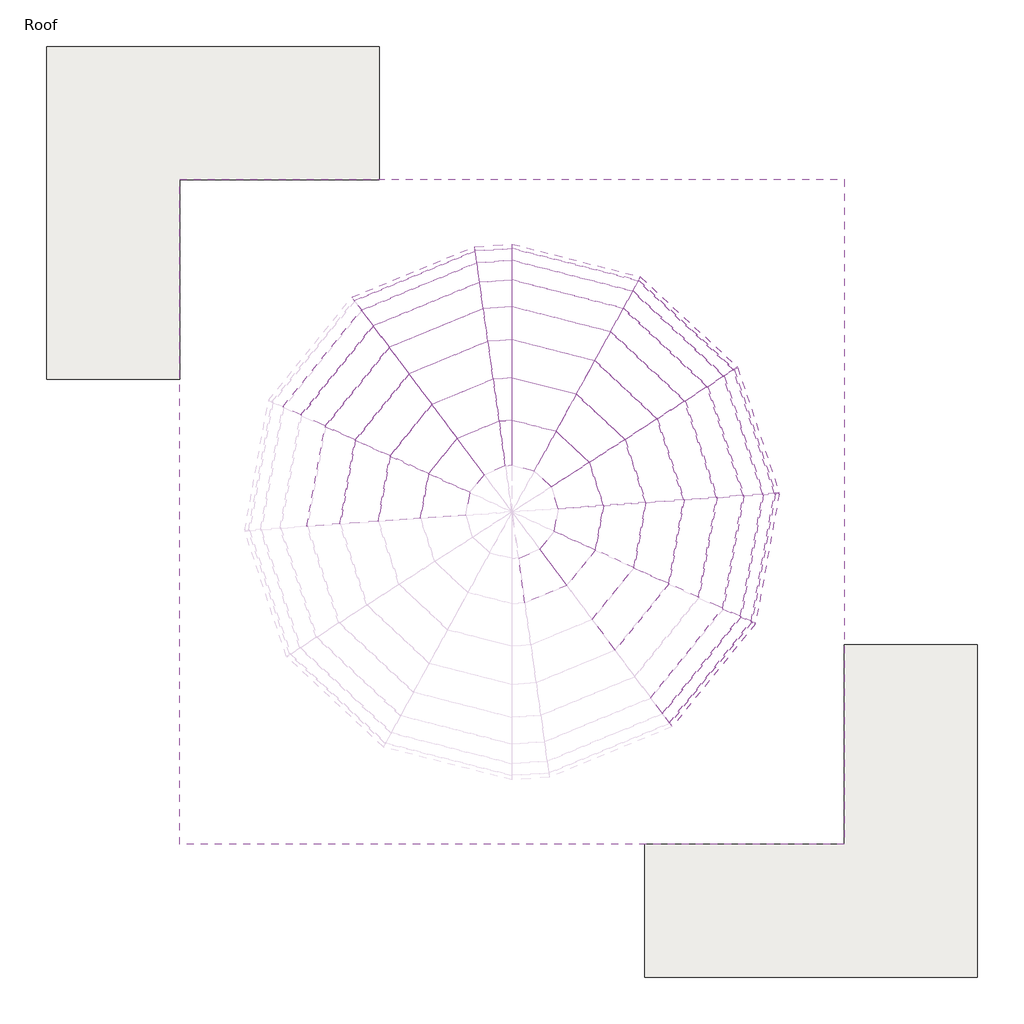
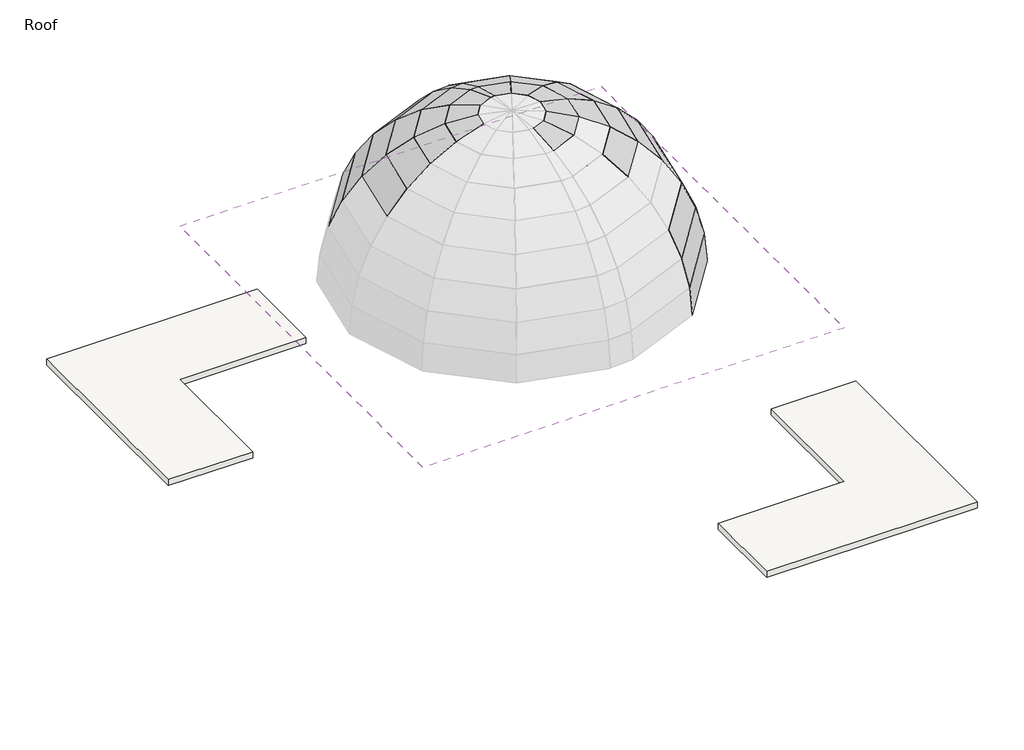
# One storey, part 2 of 2: 64 plates, 2 roofs.
"""IFC4 building model written with IfcOpenShell, lengths in millimetres."""

import ifcopenshell
import ifcopenshell.guid

model = None  # the IFC model being written
_history = None  # IfcOwnerHistory: only IFC2X3 demands one
_inside = {}  # id of a spatial element -> (the spatial element, [elements in it])
_under = {}  # id of a project, library or spatial element -> (it, [spatial elements below it])
_declared = {}  # id of a project -> (the project, [libraries it declares])
_typed = {}  # id of a type object -> (the type object, [elements of that type])
_made_of = {}  # id of a material, layer set ... -> (it, [elements and type objects made of it])


def new_model(schema):
    """Start an empty IFC model of exactly this schema.

    Asked for "IFC4X3", IfcOpenShell would pick the latest addendum, in which some entities
    have other attributes; the version numbers below select the first issue.
    IFC2X3 requires an IfcOwnerHistory on every rooted entity: one is made here for all.
    """
    global model, _history
    if schema == "IFC4X3":
        model = ifcopenshell.file(schema_version=(4, 3, 0, 0))
    else:
        model = ifcopenshell.file(schema=schema)
    _inside.clear()
    _under.clear()
    _declared.clear()
    _typed.clear()
    _made_of.clear()
    _history = None
    if model.schema == "IFC2X3":
        org = make("IfcOrganization", Name="unknown")
        user = make(
            "IfcPersonAndOrganization",
            ThePerson=make("IfcPerson", FamilyName="unknown"),
            TheOrganization=org,
        )
        app = make(
            "IfcApplication",
            ApplicationDeveloper=org,
            Version="unknown",
            ApplicationFullName="unknown",
            ApplicationIdentifier="unknown",
        )
        _history = make(
            "IfcOwnerHistory",
            OwningUser=user,
            OwningApplication=app,
            ChangeAction="ADDED",
            CreationDate=0,
        )
    return model


def make(cls, **values):
    """One entity of the class cls with the attributes given. An attribute that is None is left unset."""
    return model.create_entity(
        cls, **{name: value for name, value in values.items() if value is not None}
    )


def rooted(cls, **values):
    """An entity with a GlobalId (a new one), such as an element, a storey or a relation."""
    return make(cls, GlobalId=ifcopenshell.guid.new(), OwnerHistory=_history, **values)


def si_unit(unit_type, name, prefix=None):
    """IfcSIUnit, for example si_unit("LENGTHUNIT", "METRE", prefix="MILLI")."""
    return make("IfcSIUnit", UnitType=unit_type, Prefix=prefix, Name=name)


def assignment(units):
    """IfcUnitAssignment: the units of a project."""
    return None if units is None else make("IfcUnitAssignment", Units=units)


def point(xyz):
    """IfcCartesianPoint."""
    return None if xyz is None else make("IfcCartesianPoint", Coordinates=xyz)


def direction(xyz):
    """IfcDirection."""
    return None if xyz is None else make("IfcDirection", DirectionRatios=xyz)


def frame(location, z_axis=None, x_axis=None):
    """IfcAxis2Placement3D, a coordinate frame: its origin and axes. An axis left out is left unset."""
    return make(
        "IfcAxis2Placement3D",
        Location=point(location),
        Axis=direction(z_axis),
        RefDirection=direction(x_axis),
    )


def frame_2d(location, x_axis=None):
    """IfcAxis2Placement2D, a coordinate frame in the plane: its origin and x axis."""
    return make(
        "IfcAxis2Placement2D", Location=point(location), RefDirection=direction(x_axis)
    )


def origin():
    """The frame at (0, 0, 0) with its axes left unset."""
    return frame((0.0, 0.0, 0.0))


def place(relative_to, where):
    """IfcLocalPlacement: puts the frame where relative to a parent placement (None: the world)."""
    return make(
        "IfcLocalPlacement", PlacementRelTo=relative_to, RelativePlacement=where
    )


def context(
    kind, dimensions, precision=None, world=None, true_north=None, identifier=None
):
    """IfcGeometricRepresentationContext, for example the 3D "Model" context."""
    return make(
        "IfcGeometricRepresentationContext",
        ContextIdentifier=identifier,
        ContextType=kind,
        CoordinateSpaceDimension=dimensions,
        Precision=precision,
        WorldCoordinateSystem=world,
        TrueNorth=true_north,
    )


def project(units=None, contexts=None):
    """IfcProject with its units and contexts."""
    return rooted(
        "IfcProject",
        Name="project",
        RepresentationContexts=contexts,
        UnitsInContext=assignment(units),
    )


def spatial(cls, under=None, at=None, **own):
    """A site, building, storey or space (cls), placed at a placement, below another one or the project."""
    s = rooted(cls, ObjectPlacement=at, **own)
    if under is not None:
        _under.setdefault(under.id(), (under, []))[1].append(s)
    return s


def polyline(points):
    """IfcPolyline through the points."""
    return make("IfcPolyline", Points=[point(p) for p in points])


def circle_curve(where, radius):
    """IfcCircle in the frame where."""
    return make("IfcCircle", Position=where, Radius=radius)


def trimmed(basis, trim1, trim2, sense, master):
    """IfcTrimmedCurve: the piece of a basis curve between two trims."""
    return make(
        "IfcTrimmedCurve",
        BasisCurve=basis,
        Trim1=trim1,
        Trim2=trim2,
        SenseAgreement=sense,
        MasterRepresentation=master,
    )


def segment(curve, same_sense, transition):
    """IfcCompositeCurveSegment."""
    return make(
        "IfcCompositeCurveSegment",
        Transition=transition,
        SameSense=same_sense,
        ParentCurve=curve,
    )


def composite_curve(segments, self_intersect=None):
    """IfcCompositeCurve: segments joined end to end."""
    return make("IfcCompositeCurve", Segments=segments, SelfIntersect=self_intersect)


def outline(outer, holes=None, kind="AREA"):
    """IfcArbitraryClosedProfileDef: a profile drawn as a closed curve; with holes, ...WithVoids."""
    if holes is None:
        return make("IfcArbitraryClosedProfileDef", ProfileType=kind, OuterCurve=outer)
    return make(
        "IfcArbitraryProfileDefWithVoids",
        ProfileType=kind,
        OuterCurve=outer,
        InnerCurves=holes,
    )


def extrude(swept, where, along, depth):
    """IfcExtrudedAreaSolid: the profile swept, set in the frame where, extruded along a direction by depth."""
    return make(
        "IfcExtrudedAreaSolid",
        SweptArea=swept,
        Position=where,
        ExtrudedDirection=direction(along),
        Depth=depth,
    )


def shape(context_of_items, identifier, shape_type, items):
    """IfcShapeRepresentation: the items that make up one representation, for example the "Body"."""
    return make(
        "IfcShapeRepresentation",
        ContextOfItems=context_of_items,
        RepresentationIdentifier=identifier,
        RepresentationType=shape_type,
        Items=items,
    )


def source(mapping_origin, context_of_items, identifier, shape_type, items):
    """IfcRepresentationMap: a shape defined once, which mapped items show again and again."""
    return make(
        "IfcRepresentationMap",
        MappingOrigin=mapping_origin,
        MappedRepresentation=shape(context_of_items, identifier, shape_type, items),
    )


def transform(
    local_origin,
    x_axis=None,
    y_axis=None,
    z_axis=None,
    scale=None,
    scale2=None,
    scale3=None,
    uniform=True,
):
    """IfcCartesianTransformationOperator3D, or its non-uniform kind. x_axis, y_axis, z_axis: its Axis1, 2, 3."""
    if uniform:
        return make(
            "IfcCartesianTransformationOperator3D",
            Axis1=direction(x_axis),
            Axis2=direction(y_axis),
            LocalOrigin=point(local_origin),
            Scale=scale,
            Axis3=direction(z_axis),
        )
    return make(
        "IfcCartesianTransformationOperator3DnonUniform",
        Axis1=direction(x_axis),
        Axis2=direction(y_axis),
        LocalOrigin=point(local_origin),
        Scale=scale,
        Axis3=direction(z_axis),
        Scale2=scale2,
        Scale3=scale3,
    )


def mapped(mapping_source, mapping_target):
    """IfcMappedItem: shows the shape of a source again, moved by a transform."""
    return make(
        "IfcMappedItem", MappingSource=mapping_source, MappingTarget=mapping_target
    )


def made_of(thing, what):
    """Note that an element or type object is made of a material, layer set ...; save() writes the relation."""
    if what is not None:
        _made_of.setdefault(what.id(), (what, []))[1].append(thing)
    return thing


def element(
    cls,
    number,
    at=None,
    inside=None,
    cuts=None,
    type_object=None,
    material=None,
    context=None,
    identifier="Body",
    shape_type=None,
    held_by="IfcProductDefinitionShape",
    body=None,
    shapes=None,
    **own,
):
    """One element of the class cls, such as IfcWall. Its Tag is "e" and its number.

    at: its placement. inside: the storey or other place that contains it. cuts: it is an
    opening in that element (IfcRelVoidsElement). A single representation is given by context,
    identifier, shape_type and body (its items); several are given by shapes. held_by: the class
    of the entity that holds the representations. save() writes the other relations.
    """
    e = rooted(cls, Tag="e%d" % number, ObjectPlacement=at, **own)
    if body is not None:
        shapes = [shape(context, identifier, shape_type, body)]
    if shapes is not None:
        e.Representation = make(held_by, Representations=shapes)
    if inside is not None:
        _inside.setdefault(inside.id(), (inside, []))[1].append(e)
    if cuts is not None:
        rooted(
            "IfcRelVoidsElement", RelatingBuildingElement=cuts, RelatedOpeningElement=e
        )
    if type_object is not None:
        _typed.setdefault(type_object.id(), (type_object, []))[1].append(e)
    return made_of(e, material)


def aggregate(whole, parts):
    """IfcRelAggregates: a whole, such as a stair, and the parts it consists of."""
    return rooted("IfcRelAggregates", RelatingObject=whole, RelatedObjects=parts)


def save(model, path):
    """Write the relations noted so far, then the file.

    IfcRelAggregates (storeys below a building ...), IfcRelContainedInSpatialStructure (elements
    in a storey), IfcRelDefinesByType, IfcRelAssociatesMaterial and IfcRelDeclares: one each for
    every whole, place, type object, material and project.
    """
    for whole, parts in _under.values():
        aggregate(whole, parts)
    for where, things in _inside.values():
        rooted(
            "IfcRelContainedInSpatialStructure",
            RelatedElements=things,
            RelatingStructure=where,
        )
    for kind, things in _typed.values():
        rooted("IfcRelDefinesByType", RelatedObjects=things, RelatingType=kind)
    for what, things in _made_of.values():
        rooted("IfcRelAssociatesMaterial", RelatedObjects=things, RelatingMaterial=what)
    for by, libraries in _declared.values():
        rooted("IfcRelDeclares", RelatingContext=by, RelatedDefinitions=libraries)
    model.write(path)


def system_panel_glazed_405752de(model_context):
    return source(origin(), model_context, "Body", "SweptSolid", [
        extrude(outline(polyline([(0.0, -263.0068887), (0.0, 263.0068887), (1035.8868487, 517.9591915), (1035.8868487, -517.9591915), (0.0, -263.0068887)])), frame((0.0, -44.45, 0.0), z_axis=(0.0, 1.0, 0.0), x_axis=(0.0, 0.0, 1.0)), (0.0, 0.0, 1.0), 25.4),
    ])


def system_panel_glazed_2f3c7a1b(model_context):
    return source(origin(), model_context, "Body", "SweptSolid", [
        extrude(outline(polyline([(0.0, -74.625436), (0.0, 74.625436), (1064.3444742, 146.9654679), (1064.3444742, -146.9654679), (0.0, -74.625436)])), frame((0.0, -44.45, 0.0), z_axis=(0.0, 1.0, 0.0), x_axis=(0.0, 0.0, 1.0)), (0.0, 0.0, 1.0), 25.4),
    ])


def system_panel_glazed_7985a11f(model_context):
    return source(origin(), model_context, "Body", "SweptSolid", [
        extrude(outline(polyline([(0.0, -517.9591915), (0.0, 517.9591915), (1039.6625925, 757.048994), (1039.6625925, -757.048994), (0.0, -517.9591915)])), frame((0.0, -44.45, 0.0), z_axis=(0.0, 1.0, 0.0), x_axis=(0.0, 0.0, 1.0)), (0.0, 0.0, 1.0), 25.4),
    ])


def system_panel_glazed_b27e74bc(model_context):
    return source(origin(), model_context, "Body", "SweptSolid", [
        extrude(outline(polyline([(0.0, -146.9654679), (0.0, 146.9654679), (1064.6408225, 214.8046825), (1064.6408225, -214.8046825), (0.0, -146.9654679)])), frame((0.0, -44.45, 0.0), z_axis=(0.0, 1.0, 0.0), x_axis=(0.0, 0.0, 1.0)), (0.0, 0.0, 1.0), 25.4),
    ])


def system_panel_glazed_a47debd1(model_context):
    return source(origin(), model_context, "Body", "SweptSolid", [
        extrude(outline(polyline([(0.0, -757.048994), (0.0, 757.048994), (1044.7235015, 972.9541711), (1044.7235015, -972.9541711), (0.0, -757.048994)])), frame((0.0, -44.45, 0.0), z_axis=(0.0, 1.0, 0.0), x_axis=(0.0, 0.0, 1.0)), (0.0, 0.0, 1.0), 25.4),
    ])


def system_panel_glazed_bc27ae0c(model_context):
    return source(origin(), model_context, "Body", "SweptSolid", [
        extrude(outline(polyline([(0.0, -214.8046825), (0.0, 214.8046825), (1065.039601, 276.0655036), (1065.039601, -276.0655036), (0.0, -214.8046825)])), frame((0.0, -44.45, 0.0), z_axis=(0.0, 1.0, 0.0), x_axis=(0.0, 0.0, 1.0)), (0.0, 0.0, 1.0), 25.4),
    ])


def system_panel_glazed_ac83cff1(model_context):
    return source(origin(), model_context, "Body", "SweptSolid", [
        extrude(outline(polyline([(0.0, -972.9541711), (0.0, 972.9541711), (1050.440804, 1159.0626267), (1050.440804, -1159.0626267), (0.0, -972.9541711)])), frame((0.0, -44.45, 0.0), z_axis=(0.0, 1.0, 0.0), x_axis=(0.0, 0.0, 1.0)), (0.0, 0.0, 1.0), 25.4),
    ])


def system_panel_glazed_0369cbda(model_context):
    return source(origin(), model_context, "Body", "SweptSolid", [
        extrude(outline(polyline([(0.0, -276.0655036), (0.0, 276.0655036), (1065.4922492, 328.8718187), (1065.4922492, -328.8718187), (0.0, -276.0655036)])), frame((0.0, -44.45, 0.0), z_axis=(0.0, 1.0, 0.0), x_axis=(0.0, 0.0, 1.0)), (0.0, 0.0, 1.0), 25.4),
    ])


def system_panel_glazed_ca67373d(model_context):
    return source(origin(), model_context, "Body", "SweptSolid", [
        extrude(outline(polyline([(0.0, -1159.0626267), (0.0, 1159.0626267), (1056.1146796, 1309.6747893), (1056.1146796, -1309.6747893), (0.0, -1159.0626267)])), frame((0.0, -44.45, 0.0), z_axis=(0.0, 1.0, 0.0), x_axis=(0.0, 0.0, 1.0)), (0.0, 0.0, 1.0), 25.4),
    ])


def system_panel_glazed_91e01184(model_context):
    return source(origin(), model_context, "Body", "SweptSolid", [
        extrude(outline(polyline([(0.0, -328.8718187), (0.0, 328.8718187), (1065.9437099, 371.6064343), (1065.9437099, -371.6064343), (0.0, -328.8718187)])), frame((0.0, -44.45, 0.0), z_axis=(0.0, 1.0, 0.0), x_axis=(0.0, 0.0, 1.0)), (0.0, 0.0, 1.0), 25.4),
    ])


def system_panel_glazed_642925df(model_context):
    return source(origin(), model_context, "Body", "SweptSolid", [
        extrude(outline(polyline([(0.0, -1309.6747893), (0.0, 1309.6747893), (1061.0613765, 1420.1781615), (1061.0613765, -1420.1781615), (0.0, -1309.6747893)])), frame((0.0, -44.45, 0.0), z_axis=(0.0, 1.0, 0.0), x_axis=(0.0, 0.0, 1.0)), (0.0, 0.0, 1.0), 25.4),
    ])


def system_panel_glazed_b00dac85(model_context):
    return source(origin(), model_context, "Body", "SweptSolid", [
        extrude(outline(polyline([(0.0, -371.6064343), (0.0, 371.6064343), (1066.3391375, 402.9606029), (1066.3391375, -402.9606029), (0.0, -371.6064343)])), frame((0.0, -44.45, 0.0), z_axis=(0.0, 1.0, 0.0), x_axis=(0.0, 0.0, 1.0)), (0.0, 0.0, 1.0), 25.4),
    ])


def system_panel_glazed_7188ca77(model_context):
    return source(origin(), model_context, "Body", "SweptSolid", [
        extrude(outline(polyline([(0.0, -1420.1781615), (0.0, 1420.1781615), (1064.6933099, 1487.1885776), (1064.6933099, -1487.1885776), (0.0, -1420.1781615)])), frame((0.0, -44.45, 0.0), z_axis=(0.0, 1.0, 0.0), x_axis=(0.0, 0.0, 1.0)), (0.0, 0.0, 1.0), 25.4),
    ])


def system_panel_glazed_78ed8cde(model_context):
    return source(origin(), model_context, "Body", "SweptSolid", [
        extrude(outline(polyline([(0.0, -402.9606029), (0.0, 402.9606029), (1066.6305484, 421.974103), (1066.6305484, -421.974103), (0.0, -402.9606029)])), frame((0.0, -44.45, 0.0), z_axis=(0.0, 1.0, 0.0), x_axis=(0.0, 0.0, 1.0)), (0.0, 0.0, 1.0), 25.4),
    ])


def system_panel_glazed_a47825d1(model_context):
    return source(origin(), model_context, "Body", "SweptSolid", [
        extrude(outline(polyline([(0.0, -1487.1885776), (0.0, 1487.1885776), (1028.7962986, 1508.6830313), (1028.7962986, -1508.6830313), (0.0, -1487.1885776)])), frame((0.0, -44.45, 0.0), z_axis=(0.0, 1.0, 0.0), x_axis=(0.0, 0.0, 1.0)), (0.0, 0.0, 1.0), 25.4),
    ])


def system_panel_glazed_b4261101(model_context):
    return source(origin(), model_context, "Body", "SweptSolid", [
        extrude(outline(polyline([(0.0, -421.974103), (0.0, 421.974103), (1029.0027404, 428.072928), (1029.0027404, -428.072928), (0.0, -421.974103)])), frame((0.0, -44.45, 0.0), z_axis=(0.0, 1.0, 0.0), x_axis=(0.0, 0.0, 1.0)), (0.0, 0.0, 1.0), 25.4),
    ])


model = new_model("IFC4")

# Units and contexts
model_context = context("Model", 3, world=origin())
ifc_project = project(units=[si_unit("LENGTHUNIT", "METRE", prefix="MILLI")], contexts=[model_context])

# Site, building, storey
site = spatial("IfcSite", under=ifc_project)
building = spatial("IfcBuilding", under=site)
storey = spatial("IfcBuildingStorey", under=building, Name="Roof", Elevation=15240.0)

# Plates
placement = place(None, origin())
system_panel_glazed_shape = system_panel_glazed_405752de(model_context)
element("IfcPlate", 1, ObjectType="System Panel : Glazed", at=placement, inside=storey, context=model_context, shape_type="MappedRepresentation", body=[
    mapped(system_panel_glazed_shape, transform((-4701.5377686, 4136.3868089, 24290.655), x_axis=(0.17883901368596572, 0.9838783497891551, 0.0), y_axis=(0.26326019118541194, -0.04785265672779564, -0.9635373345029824), z_axis=(-0.9480035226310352, 0.1723180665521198, -0.2675739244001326))),
])
element("IfcPlate", 2, ObjectType="System Panel : Glazed", at=placement, inside=storey, context=model_context, shape_type="MappedRepresentation", body=[
    mapped(system_panel_glazed_shape, transform((-4489.1293771, 4599.6641292, 24290.655), x_axis=(0.6287763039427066, 0.7775862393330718, 0.0), y_axis=(0.20806180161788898, -0.1682441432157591, -0.963537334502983), z_axis=(-0.7492333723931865, 0.6058494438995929, -0.26757392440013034))),
])
element("IfcPlate", 3, ObjectType="System Panel : Glazed", at=placement, inside=storey, context=model_context, shape_type="MappedRepresentation", body=[
    mapped(system_panel_glazed_shape, transform((-4080.5640346, 4904.3238758, 24290.655), x_axis=(0.9246633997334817, 0.38078550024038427, 0.0), y_axis=(0.10188827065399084, -0.24741581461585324, -0.9635373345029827), z_axis=(-0.3669010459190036, 0.8909477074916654, -0.2675739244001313))),
])
element("IfcPlate", 4, ObjectType="System Panel : Glazed", at=placement, inside=storey, context=model_context, shape_type="MappedRepresentation", body=[
    mapped(system_panel_glazed_shape, transform((-3433.6637224, 4949.8628864, 24290.655), x_axis=(0.9688911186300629, -0.24748737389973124, 0.0), y_axis=(-0.06622116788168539, -0.259249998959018, -0.9635373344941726), z_axis=(0.23846332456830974, 0.933562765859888, -0.2675739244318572))),
])
element("IfcPlate", 5, ObjectType="System Panel : Glazed", at=placement, inside=storey, context=model_context, shape_type="MappedRepresentation", body=[
    mapped(system_panel_glazed_shape, transform((-2986.4457802, 4705.4466167, 24290.655), x_axis=(0.7315127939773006, -0.6818277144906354, 0.0), y_axis=(-0.1824393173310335, -0.19573374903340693, -0.9635373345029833), z_axis=(0.656966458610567, 0.704839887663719, -0.2675739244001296))),
])
element("IfcPlate", 6, ObjectType="System Panel : Glazed", at=placement, inside=storey, context=model_context, shape_type="MappedRepresentation", body=[
    mapped(system_panel_glazed_shape, transform((-2711.2283688, 4276.4960639, 24290.655), x_axis=(0.31491383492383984, -0.9491202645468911, 0.0), y_axis=(-0.25395983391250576, -0.08426273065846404, -0.9635373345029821), z_axis=(0.9145128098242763, 0.30343123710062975, -0.26757392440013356))),
])
element("IfcPlate", 7, ObjectType="System Panel : Glazed", at=placement, inside=storey, context=model_context, shape_type="MappedRepresentation", body=[
    mapped(system_panel_glazed_shape, transform((-2675.4397535, 3768.1041134, 24290.655), x_axis=(-0.17883901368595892, -0.9838783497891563, 0.0), y_axis=(-0.2632601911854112, 0.047852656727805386, -0.9635373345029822), z_axis=(0.9480035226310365, -0.17231806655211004, -0.2675739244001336))),
])
element("IfcPlate", 8, ObjectType="System Panel : Glazed", at=placement, inside=storey, context=model_context, shape_type="MappedRepresentation", body=[
    mapped(system_panel_glazed_shape, transform((-2887.848145, 3304.8267932, 24290.655), x_axis=(-0.6287763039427, -0.7775862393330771, 0.0), y_axis=(-0.20806180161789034, 0.16824414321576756, -0.9635373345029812), z_axis=(0.7492333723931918, -0.6058494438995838, -0.2675739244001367))),
])
element("IfcPlate", 9, ObjectType="System Panel : Glazed", at=placement, inside=storey, context=model_context, shape_type="MappedRepresentation", body=[
    mapped(system_panel_glazed_shape, transform((-3296.4134875, 3000.1670465, 24290.655), x_axis=(-0.9246633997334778, -0.3807855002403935, 0.0), y_axis=(-0.101888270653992, 0.24741581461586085, -0.9635373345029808), z_axis=(0.3669010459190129, -0.8909477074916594, -0.2675739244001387))),
])
system_panel_glazed_2_shape = system_panel_glazed_2f3c7a1b(model_context)
element("IfcPlate", 10, ObjectType="System Panel : Glazed", at=placement, inside=storey, context=model_context, shape_type="MappedRepresentation", body=[
    mapped(system_panel_glazed_2_shape, transform((-3762.9299761, 5009.713428, 24290.655), x_axis=(0.9975313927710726, 0.07022193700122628, 0.0), y_axis=(0.01828717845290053, -0.2597768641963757, -0.9654954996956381), z_axis=(-0.0677989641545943, 0.9631120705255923, -0.2604197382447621))),
])
system_panel_glazed_3_shape = system_panel_glazed_7985a11f(model_context)
element("IfcPlate", 11, ObjectType="System Panel : Glazed", at=placement, inside=storey, context=model_context, shape_type="MappedRepresentation", body=[
    mapped(system_panel_glazed_3_shape, transform((-5683.5621504, 4314.8888279, 24013.4786906), x_axis=(0.17883901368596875, 0.9838783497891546, 0.0), y_axis=(0.428238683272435, -0.07784070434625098, -0.9003068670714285), z_axis=(-0.8857924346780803, 0.1610099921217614, -0.4352557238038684))),
])
element("IfcPlate", 12, ObjectType="System Panel : Glazed", at=placement, inside=storey, context=model_context, shape_type="MappedRepresentation", body=[
    mapped(system_panel_glazed_3_shape, transform((-5265.2503743, 5227.2556005, 24013.4786906), x_axis=(0.6287763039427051, 0.777586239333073, 0.0), y_axis=(0.3384488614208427, -0.27367848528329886, -0.9003068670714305), z_axis=(-0.7000662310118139, 0.5660916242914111, -0.4352557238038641))),
])
element("IfcPlate", 13, ObjectType="System Panel : Glazed", at=placement, inside=storey, context=model_context, shape_type="MappedRepresentation", body=[
    mapped(system_panel_glazed_3_shape, transform((-4460.6320029, 5827.244889, 24013.4786906), x_axis=(0.9246633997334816, 0.38078550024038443, 0.0), y_axis=(0.16573906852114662, -0.4024650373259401, -0.9003068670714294), z_axis=(-0.3428238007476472, 0.8324808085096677, -0.43525572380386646))),
])
element("IfcPlate", 14, ObjectType="System Panel : Glazed", at=placement, inside=storey, context=model_context, shape_type="MappedRepresentation", body=[
    mapped(system_panel_glazed_3_shape, transform((-3186.6427006, 5916.928278, 24013.4786906), x_axis=(0.9688911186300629, -0.2474873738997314, 0.0), y_axis=(-0.10772029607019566, -0.4217154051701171, -0.9003068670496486), z_axis=(0.2228145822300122, 0.8722993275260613, -0.43525572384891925))),
])
element("IfcPlate", 15, ObjectType="System Panel : Glazed", at=placement, inside=storey, context=model_context, shape_type="MappedRepresentation", body=[
    mapped(system_panel_glazed_3_shape, transform((-2305.9028656, 5435.5809869, 24013.4786906), x_axis=(0.7315127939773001, -0.6818277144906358, 0.0), y_axis=(-0.2967694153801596, -0.3183951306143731, -0.9003068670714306), z_axis=(0.6138541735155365, 0.6585859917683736, -0.43525572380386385))),
])
element("IfcPlate", 16, ObjectType="System Panel : Glazed", at=placement, inside=storey, context=model_context, shape_type="MappedRepresentation", body=[
    mapped(system_panel_glazed_3_shape, transform((-1763.896576, 4590.816492, 24013.4786906), x_axis=(0.3149138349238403, -0.949120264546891, 0.0), y_axis=(-0.4131100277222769, -0.13706804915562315, -0.9003068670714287), z_axis=(0.8544994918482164, 0.283519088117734, -0.43525572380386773))),
])
element("IfcPlate", 17, ObjectType="System Panel : Glazed", at=placement, inside=storey, context=model_context, shape_type="MappedRepresentation", body=[
    mapped(system_panel_glazed_3_shape, transform((-1693.4153717, 3589.6020945, 24013.4786906), x_axis=(-0.17883901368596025, -0.983878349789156, 0.0), y_axis=(-0.42823868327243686, 0.07784070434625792, -0.9003068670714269), z_axis=(0.8857924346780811, -0.1610099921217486, -0.43525572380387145))),
])
system_panel_glazed_4_shape = system_panel_glazed_b27e74bc(model_context)
element("IfcPlate", 18, ObjectType="System Panel : Glazed", at=placement, inside=storey, context=model_context, shape_type="MappedRepresentation", body=[
    mapped(system_panel_glazed_4_shape, transform((-3835.091429, 6034.7964383, 24013.4786906), x_axis=(0.9975313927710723, 0.07022193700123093, 0.0), y_axis=(0.02984740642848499, -0.4239946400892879, -0.9051727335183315), z_axis=(-0.06356298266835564, 0.9029382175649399, -0.42504390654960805))),
])
system_panel_glazed_5_shape = system_panel_glazed_a47debd1(model_context)
element("IfcPlate", 19, ObjectType="System Panel : Glazed", at=placement, inside=storey, context=model_context, shape_type="MappedRepresentation", body=[
    mapped(system_panel_glazed_5_shape, transform((-6604.4874096, 4482.2848937, 23560.9595963), x_axis=(0.1788390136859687, 0.9838783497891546, 0.0), y_axis=(0.5782436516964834, -0.10510702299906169, -0.8090653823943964), z_axis=(-0.7960219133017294, 0.1446924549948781, -0.5877186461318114))),
])
element("IfcPlate", 20, ObjectType="System Panel : Glazed", at=placement, inside=storey, context=model_context, shape_type="MappedRepresentation", body=[
    mapped(system_panel_glazed_5_shape, transform((-5993.083047, 5815.7998863, 23560.9595963), x_axis=(0.6287763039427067, 0.7775862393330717, 0.0), y_axis=(0.45700193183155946, -0.36954355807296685, -0.8090653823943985), z_axis=(-0.6291181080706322, 0.5087211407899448, -0.5877186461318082))),
])
element("IfcPlate", 21, ObjectType="System Panel : Glazed", at=placement, inside=storey, context=model_context, shape_type="MappedRepresentation", body=[
    mapped(system_panel_glazed_5_shape, transform((-4817.0530844, 6692.7440447, 23560.9595963), x_axis=(0.9246633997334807, 0.38078550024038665, 0.0), y_axis=(0.2237947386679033, -0.5434419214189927, -0.809065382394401), z_axis=(-0.3080803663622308, 0.7481131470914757, -0.5877186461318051))),
])
element("IfcPlate", 22, ObjectType="System Panel : Glazed", at=placement, inside=storey, context=model_context, shape_type="MappedRepresentation", body=[
    mapped(system_panel_glazed_5_shape, transform((-2954.9907144, 6823.8252583, 23560.9595963), x_axis=(0.9688911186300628, -0.24748737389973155, 0.0), y_axis=(-0.14545294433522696, -0.569435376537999, -0.8090653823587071), z_axis=(0.20023346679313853, 0.7838962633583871, -0.5877186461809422))),
])
element("IfcPlate", 23, ObjectType="System Panel : Glazed", at=placement, inside=storey, context=model_context, shape_type="MappedRepresentation", body=[
    mapped(system_panel_glazed_5_shape, transform((-1667.701644, 6120.2882066, 23560.9595963), x_axis=(0.7315127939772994, -0.6818277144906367, 0.0), y_axis=(-0.4007228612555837, -0.4299237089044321, -0.8090653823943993), z_axis=(0.5516432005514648, 0.5918416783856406, -0.5877186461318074))),
])
element("IfcPlate", 24, ObjectType="System Panel : Glazed", at=placement, inside=storey, context=model_context, shape_type="MappedRepresentation", body=[
    mapped(system_panel_glazed_5_shape, transform((-875.5054189, 4885.5806822, 23560.9595963), x_axis=(0.3149138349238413, -0.9491202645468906, 0.0), y_axis=(-0.5578156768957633, -0.18508073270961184, -0.8090653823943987), z_axis=(0.767900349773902, 0.254785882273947, -0.587718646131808))),
])
element("IfcPlate", 25, ObjectType="System Panel : Glazed", at=placement, inside=storey, context=model_context, shape_type="MappedRepresentation", body=[
    mapped(system_panel_glazed_5_shape, transform((-772.4901125, 3422.2060286, 23560.9595963), x_axis=(-0.17883901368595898, -0.9838783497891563, 0.0), y_axis=(-0.5782436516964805, 0.10510702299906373, -0.8090653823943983), z_axis=(0.7960219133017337, -0.14469245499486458, -0.5877186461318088))),
])
element("IfcPlate", 26, ObjectType="System Panel : Glazed", at=placement, inside=storey, context=model_context, shape_type="MappedRepresentation", body=[
    mapped(system_panel_glazed_5_shape, transform((-1383.8944751, 2088.6910361, 23560.9595963), x_axis=(-0.6287763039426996, -0.7775862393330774, 0.0), y_axis=(-0.45700193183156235, 0.3695435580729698, -0.8090653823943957), z_axis=(0.6291181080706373, -0.5087211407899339, -0.5877186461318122))),
])
system_panel_glazed_6_shape = system_panel_glazed_bc27ae0c(model_context)
element("IfcPlate", 27, ObjectType="System Panel : Glazed", at=placement, inside=storey, context=model_context, shape_type="MappedRepresentation", body=[
    mapped(system_panel_glazed_6_shape, transform((-3902.7631751, 6996.1013249, 23560.9595963), x_axis=(0.9975313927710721, 0.07022193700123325, 0.0), y_axis=(0.040483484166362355, -0.5750844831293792, -0.8170917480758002), z_axis=(-0.057377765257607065, 0.8150746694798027, -0.5765076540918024))),
])
system_panel_glazed_7_shape = system_panel_glazed_ac83cff1(model_context)
element("IfcPlate", 28, ObjectType="System Panel : Glazed", at=placement, inside=storey, context=model_context, shape_type="MappedRepresentation", body=[
    mapped(system_panel_glazed_7_shape, transform((-7436.1102101, 4633.4485019, 22946.9561144), x_axis=(0.17883901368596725, 0.9838783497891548, 0.0), y_axis=(0.7087358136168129, -0.12882650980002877, -0.6936117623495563), z_axis=(-0.6824295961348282, 0.12404484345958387, -0.7203490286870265))),
])
element("IfcPlate", 29, ObjectType="System Panel : Glazed", at=placement, inside=storey, context=model_context, shape_type="MappedRepresentation", body=[
    mapped(system_panel_glazed_7_shape, transform((-6650.3375198, 6347.2728178, 22946.9561144), x_axis=(0.6287763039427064, 0.7775862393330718, 0.0), y_axis=(0.5601334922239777, -0.4529383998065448, -0.6936117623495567), z_axis=(-0.5393429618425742, 0.43612664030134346, -0.7203490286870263))),
])
element("IfcPlate", 30, ObjectType="System Panel : Glazed", at=placement, inside=storey, context=model_context, shape_type="MappedRepresentation", body=[
    mapped(system_panel_glazed_7_shape, transform((-5138.9118835, 7474.3154313, 22946.9561144), x_axis=(0.924663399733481, 0.3807855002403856, 0.0), y_axis=(0.2742984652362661, -0.6660803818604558, -0.693611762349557), z_axis=(-0.2641173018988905, 0.6413574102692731, -0.7203490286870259))),
])
element("IfcPlate", 31, ObjectType="System Panel : Glazed", at=placement, inside=storey, context=model_context, shape_type="MappedRepresentation", body=[
    mapped(system_panel_glazed_7_shape, transform((-2745.8021059, 7642.7801074, 22946.9561144), x_axis=(0.9688911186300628, -0.24748737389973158, 0.0), y_axis=(-0.1782772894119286, -0.6979397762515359, -0.6936117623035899), z_axis=(0.17166015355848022, 0.6720342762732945, -0.720349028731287))),
])
element("IfcPlate", 32, ObjectType="System Panel : Glazed", at=placement, inside=storey, context=model_context, shape_type="MappedRepresentation", body=[
    mapped(system_panel_glazed_7_shape, transform((-1091.3870279, 6738.5991172, 22946.9561144), x_axis=(0.7315127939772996, -0.6818277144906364, 0.0), y_axis=(-0.49115393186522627, -0.5269445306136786, -0.6936117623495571), z_axis=(0.4729237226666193, 0.5073858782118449, -0.7203490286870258))),
])
element("IfcPlate", 33, ObjectType="System Panel : Glazed", at=placement, inside=storey, context=model_context, shape_type="MappedRepresentation", body=[
    mapped(system_panel_glazed_7_shape, transform((-73.2618766, 5151.7614812, 22946.9561144), x_axis=(0.3149138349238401, -0.949120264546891, 0.0), y_axis=(-0.6836978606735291, -0.22684787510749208, -0.6936117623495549), z_axis=(0.6583209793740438, 0.2184279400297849, -0.7203490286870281))),
])
element("IfcPlate", 34, ObjectType="System Panel : Glazed", at=placement, inside=storey, context=model_context, shape_type="MappedRepresentation", body=[
    mapped(system_panel_glazed_7_shape, transform((59.132688, 3271.0424204, 22946.9561144), x_axis=(-0.17883901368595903, -0.9838783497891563, 0.0), y_axis=(-0.708735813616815, 0.12882650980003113, -0.6936117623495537), z_axis=(0.6824295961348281, -0.12404484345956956, -0.7203490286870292))),
])
system_panel_glazed_8_shape = system_panel_glazed_0369cbda(model_context)
element("IfcPlate", 35, ObjectType="System Panel : Glazed", at=placement, inside=storey, context=model_context, shape_type="MappedRepresentation", body=[
    mapped(system_panel_glazed_8_shape, transform((-3963.8727673, 7864.1881257, 22946.9561144), x_axis=(0.9975313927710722, 0.07022193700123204, 0.0), y_axis=(0.049869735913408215, -0.7084200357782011, -0.7040270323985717), z_axis=(-0.04943814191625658, 0.7022890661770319, -0.7101731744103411))),
])
system_panel_glazed_9_shape = system_panel_glazed_ca67373d(model_context)
element("IfcPlate", 36, ObjectType="System Panel : Glazed", at=placement, inside=storey, context=model_context, shape_type="MappedRepresentation", body=[
    mapped(system_panel_glazed_9_shape, transform((-7216.8853743, 6805.3980365, 22190.2721015), x_axis=(0.6287763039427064, 0.7775862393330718, 0.0), y_axis=(0.6451137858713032, -0.5216556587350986, -0.5583041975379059), z_axis=(-0.43412966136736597, 0.35104844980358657, -0.8296363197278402))),
])
element("IfcPlate", 37, ObjectType="System Panel : Glazed", at=placement, inside=storey, context=model_context, shape_type="MappedRepresentation", body=[
    mapped(system_panel_glazed_9_shape, transform((-5416.3514745, 8148.023425, 22190.2721015), x_axis=(0.9246633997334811, 0.38078550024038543, 0.0), y_axis=(0.3159134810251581, -0.7671343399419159, -0.5583041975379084), z_axis=(-0.21259414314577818, 0.516243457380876, -0.8296363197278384))),
])
element("IfcPlate", 38, ObjectType="System Panel : Glazed", at=placement, inside=storey, context=model_context, shape_type="MappedRepresentation", body=[
    mapped(system_panel_glazed_9_shape, transform((-2565.4832761, 8348.7123329, 22190.2721015), x_axis=(0.9688911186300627, -0.2474873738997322, 0.0), y_axis=(-0.20532451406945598, -0.8038272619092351, -0.5583041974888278), z_axis=(0.1381732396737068, 0.5409359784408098, -0.8296363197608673))),
])
element("IfcPlate", 39, ObjectType="System Panel : Glazed", at=placement, inside=storey, context=model_context, shape_type="MappedRepresentation", body=[
    mapped(system_panel_glazed_9_shape, transform((-594.6086524, 7271.5779471, 22190.2721015), x_axis=(0.7315127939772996, -0.6818277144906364, 0.0), y_axis=(-0.5656690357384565, -0.6068895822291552, -0.558304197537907), z_axis=(0.38066727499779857, 0.4084066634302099, -0.8296363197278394))),
])
element("IfcPlate", 40, ObjectType="System Panel : Glazed", at=placement, inside=storey, context=model_context, shape_type="MappedRepresentation", body=[
    mapped(system_panel_glazed_9_shape, transform((618.2653423, 5381.2071022, 22190.2721015), x_axis=(0.31491383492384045, -0.9491202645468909, 0.0), y_axis=(-0.787424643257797, -0.26126395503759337, -0.5583041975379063), z_axis=(0.5298978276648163, 0.1758177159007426, -0.8296363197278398))),
])
element("IfcPlate", 41, ObjectType="System Panel : Glazed", at=placement, inside=storey, context=model_context, shape_type="MappedRepresentation", body=[
    mapped(system_panel_glazed_9_shape, transform((775.9845817, 3140.7406553, 22190.2721015), x_axis=(-0.17883901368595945, -0.9838783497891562, 0.0), y_axis=(-0.8162612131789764, 0.1483713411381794, -0.5583041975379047), z_axis=(0.5493034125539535, -0.09984657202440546, -0.829636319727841))),
])
system_panel_glazed_10_shape = system_panel_glazed_91e01184(model_context)
element("IfcPlate", 42, ObjectType="System Panel : Glazed", at=placement, inside=storey, context=model_context, shape_type="MappedRepresentation", body=[
    mapped(system_panel_glazed_10_shape, transform((-4016.5487244, 8612.4716824, 22190.2721015), x_axis=(0.9975313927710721, 0.07022193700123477, 0.0), y_axis=(0.05772146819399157, -0.819957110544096, -0.5695073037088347), z_axis=(-0.039991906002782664, 0.568101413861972, -0.8219862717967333))),
])
system_panel_glazed_11_shape = system_panel_glazed_642925df(model_context)
element("IfcPlate", 43, ObjectType="System Panel : Glazed", at=placement, inside=storey, context=model_context, shape_type="MappedRepresentation", body=[
    mapped(system_panel_glazed_11_shape, transform((-7675.3760825, 7176.1454576, 21314.0810055), x_axis=(0.6287763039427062, 0.777586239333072, 0.0), y_axis=(0.7100210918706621, -0.5741413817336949, -0.40771524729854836), z_axis=(-0.31703376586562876, 0.25636168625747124, -0.9131091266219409))),
])
element("IfcPlate", 44, ObjectType="System Panel : Glazed", at=placement, inside=storey, context=model_context, shape_type="MappedRepresentation", body=[
    mapped(system_panel_glazed_11_shape, transform((-5640.8752699, 8693.2357186, 21314.0810055), x_axis=(0.9246633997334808, 0.38078550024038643, 0.0), y_axis=(0.3476987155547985, -0.8443185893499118, -0.40771524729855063), z_axis=(-0.15525205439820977, 0.37699936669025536, -0.9131091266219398))),
])
element("IfcPlate", 45, ObjectType="System Panel : Glazed", at=placement, inside=storey, context=model_context, shape_type="MappedRepresentation", body=[
    mapped(system_panel_glazed_11_shape, transform((-2419.5564894, 8920.0027604, 21314.0810055), x_axis=(0.9688911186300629, -0.2474873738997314, 0.0), y_axis=(-0.22598297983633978, -0.8847033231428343, -0.407715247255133), z_axis=(0.10090437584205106, 0.3950316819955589, -0.9131091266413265))),
])
element("IfcPlate", 46, ObjectType="System Panel : Glazed", at=placement, inside=storey, context=model_context, shape_type="MappedRepresentation", body=[
    mapped(system_panel_glazed_11_shape, transform((-192.5803553, 7702.9022196, 21314.0810055), x_axis=(0.7315127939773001, -0.681827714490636, 0.0), y_axis=(-0.62258310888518, -0.6679510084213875, -0.40771524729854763), z_axis=(0.2779915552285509, 0.2982489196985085, -0.9131091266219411))),
])
element("IfcPlate", 47, ObjectType="System Panel : Glazed", at=placement, inside=storey, context=model_context, shape_type="MappedRepresentation", body=[
    mapped(system_panel_glazed_11_shape, transform((1177.8982168, 5566.8907729, 21314.0810055), x_axis=(0.3149138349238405, -0.9491202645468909, 0.0), y_axis=(-0.8666503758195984, -0.28755069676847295, -0.40771524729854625), z_axis=(0.38697080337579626, 0.1283951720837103, -0.9131091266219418))),
])
element("IfcPlate", 48, ObjectType="System Panel : Glazed", at=placement, inside=storey, context=model_context, shape_type="MappedRepresentation", body=[
    mapped(system_panel_glazed_11_shape, transform((1356.1119793, 3035.2912249, 21314.0810055), x_axis=(-0.17883901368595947, -0.9838783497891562, 0.0), y_axis=(-0.8983883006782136, 0.16329953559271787, -0.4077152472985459), z_axis=(0.4011422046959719, -0.07291539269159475, -0.913109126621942))),
])
element("IfcPlate", 49, ObjectType="System Panel : Glazed", at=placement, inside=storey, context=model_context, shape_type="MappedRepresentation", body=[
    mapped(system_panel_glazed_11_shape, transform((298.3985604, 728.3454647, 21314.0810055), x_axis=(-0.6287763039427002, -0.7775862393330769, 0.0), y_axis=(-0.7100210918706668, 0.574141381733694, -0.4077152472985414), z_axis=(0.31703376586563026, -0.25636168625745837, -0.913109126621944))),
])
system_panel_glazed_12_shape = system_panel_glazed_b00dac85(model_context)
element("IfcPlate", 50, ObjectType="System Panel : Glazed", at=placement, inside=storey, context=model_context, shape_type="MappedRepresentation", body=[
    mapped(system_panel_glazed_12_shape, transform((-4059.177845, 9218.0358111, 21314.0810055), x_axis=(0.997531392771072, 0.07022193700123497, 0.0), y_axis=(0.0638029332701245, -0.9063468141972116, -0.41768964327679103), z_axis=(-0.029330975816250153, 0.41665853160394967, -0.9085897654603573))),
])
system_panel_glazed_13_shape = system_panel_glazed_7188ca77(model_context)
element("IfcPlate", 51, ObjectType="System Panel : Glazed", at=placement, inside=storey, context=model_context, shape_type="MappedRepresentation", body=[
    mapped(system_panel_glazed_13_shape, transform((-5805.6072284, 9093.2551856, 20345.2161787), x_axis=(0.924663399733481, 0.3807855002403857, 0.0), y_axis=(0.36904525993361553, -0.8961545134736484, -0.2463994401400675), z_axis=(-0.09382533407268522, 0.2278365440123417, -0.9691683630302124))),
])
element("IfcPlate", 52, ObjectType="System Panel : Glazed", at=placement, inside=storey, context=model_context, shape_type="MappedRepresentation", body=[
    mapped(system_panel_glazed_13_shape, transform((-2312.4907535, 9339.1556207, 20345.2161787), x_axis=(0.9688911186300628, -0.24748737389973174, 0.0), y_axis=(-0.23985693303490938, -0.9390186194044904, -0.24639944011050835), z_axis=(0.06098075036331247, 0.2387342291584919, -0.9691683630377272))),
])
element("IfcPlate", 53, ObjectType="System Panel : Glazed", at=placement, inside=storey, context=model_context, shape_type="MappedRepresentation", body=[
    mapped(system_panel_glazed_13_shape, transform((102.385747, 8019.3626289, 20345.2161787), x_axis=(0.7315127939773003, -0.6818277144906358, 0.0), y_axis=(-0.6608058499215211, -0.7089590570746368, -0.24639944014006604), z_axis=(0.16800196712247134, 0.18024434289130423, -0.9691683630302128))),
])
element("IfcPlate", 54, ObjectType="System Panel : Glazed", at=placement, inside=storey, context=model_context, shape_type="MappedRepresentation", body=[
    mapped(system_panel_glazed_13_shape, transform((1588.4979901, 5703.1259309, 20345.2161787), x_axis=(0.3149138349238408, -0.9491202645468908, 0.0), y_axis=(-0.9198573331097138, -0.3052045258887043, -0.2463994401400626), z_axis=(0.23386270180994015, 0.07759459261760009, -0.9691683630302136))),
])
element("IfcPlate", 55, ObjectType="System Panel : Glazed", at=placement, inside=storey, context=model_context, shape_type="MappedRepresentation", body=[
    mapped(system_panel_glazed_13_shape, transform((1781.7484792, 2957.9235179, 20345.2161787), x_axis=(-0.17883901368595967, -0.9838783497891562, 0.0), y_axis=(-0.9535437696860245, 0.17332511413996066, -0.24639944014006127), z_axis=(0.24242707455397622, -0.04406583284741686, -0.9691683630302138))),
])
element("IfcPlate", 56, ObjectType="System Panel : Glazed", at=placement, inside=storey, context=model_context, shape_type="MappedRepresentation", body=[
    mapped(system_panel_glazed_13_shape, transform((634.7908444, 456.329981, 20345.2161787), x_axis=(-0.6287763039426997, -0.7775862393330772, 0.0), y_axis=(-0.7536119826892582, 0.6093901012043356, -0.2463994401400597), z_axis=(0.19159681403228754, -0.1549301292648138, -0.9691683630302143))),
])
system_panel_glazed_14_shape = system_panel_glazed_78ed8cde(model_context)
element("IfcPlate", 57, ObjectType="System Panel : Glazed", at=placement, inside=storey, context=model_context, shape_type="MappedRepresentation", body=[
    mapped(system_panel_glazed_14_shape, transform((-4090.4546125, 9662.3351103, 20345.2161787), x_axis=(0.9975313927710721, 0.07022193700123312, 0.0), y_axis=(0.06793327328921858, -0.9650199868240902, -0.25322222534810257), z_axis=(-0.017781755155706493, 0.25259711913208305, -0.9674081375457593))),
])
system_panel_glazed_15_shape = system_panel_glazed_a47825d1(model_context)
element("IfcPlate", 58, ObjectType="System Panel : Glazed", at=placement, inside=storey, context=model_context, shape_type="MappedRepresentation", body=[
    mapped(system_panel_glazed_15_shape, transform((-5905.5024339, 9335.8312298, 19313.3491064), x_axis=(0.9246633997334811, 0.3807855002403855, 0.0), y_axis=(0.37950960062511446, -0.9215651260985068, -0.08179352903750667), z_axis=(-0.03114578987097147, 0.07563148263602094, -0.9966492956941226))),
])
element("IfcPlate", 59, ObjectType="System Panel : Glazed", at=placement, inside=storey, context=model_context, shape_type="MappedRepresentation", body=[
    mapped(system_panel_glazed_15_shape, transform((-2247.5649565, 9593.3343573, 19313.3491064), x_axis=(0.968891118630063, -0.24748737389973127, 0.0), y_axis=(-0.2466581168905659, -0.9656446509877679, -0.08179352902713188), z_axis=(0.020242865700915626, 0.07924902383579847, -0.996649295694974))),
])
element("IfcPlate", 60, ObjectType="System Panel : Glazed", at=placement, inside=storey, context=model_context, shape_type="MappedRepresentation", body=[
    mapped(system_panel_glazed_15_shape, transform((281.2563175, 8211.2675749, 19313.3491064), x_axis=(0.7315127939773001, -0.6818277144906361, 0.0), y_axis=(-0.6795431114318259, -0.7290617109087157, -0.08179352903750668), z_axis=(0.055769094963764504, 0.05983301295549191, -0.9966492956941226))),
])
element("IfcPlate", 61, ObjectType="System Panel : Glazed", at=placement, inside=storey, context=model_context, shape_type="MappedRepresentation", body=[
    mapped(system_panel_glazed_15_shape, transform((1837.4900442, 5785.7403746, 19313.3491064), x_axis=(0.3149138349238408, -0.9491202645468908, 0.0), y_axis=(-0.9459400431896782, -0.3138586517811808, -0.08179352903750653), z_axis=(0.07763189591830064, 0.025757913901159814, -0.9966492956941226))),
])
element("IfcPlate", 62, ObjectType="System Panel : Glazed", at=placement, inside=storey, context=model_context, shape_type="MappedRepresentation", body=[
    mapped(system_panel_glazed_15_shape, transform((2039.8589636, 2911.0069205, 19313.3491064), x_axis=(-0.17883901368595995, -0.9838783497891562, 0.0), y_axis=(-0.9805816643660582, 0.17823977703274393, -0.08179352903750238), z_axis=(0.08047488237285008, -0.01462787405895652, -0.996649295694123))),
])
element("IfcPlate", 63, ObjectType="System Panel : Glazed", at=placement, inside=storey, context=model_context, shape_type="MappedRepresentation", body=[
    mapped(system_panel_glazed_15_shape, transform((838.7826905, 291.3769089, 19313.3491064), x_axis=(-0.6287763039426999, -0.7775862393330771, 0.0), y_axis=(-0.774980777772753, 0.626669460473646, -0.08179352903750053), z_axis=(0.06360152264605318, -0.05142983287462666, -0.9966492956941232))),
])
system_panel_glazed_16_shape = system_panel_glazed_b4261101(model_context)
element("IfcPlate", 64, ObjectType="System Panel : Glazed", at=placement, inside=storey, context=model_context, shape_type="MappedRepresentation", body=[
    mapped(system_panel_glazed_16_shape, transform((-4109.4211757, 9931.762914, 19313.3491064), x_axis=(0.9975313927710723, 0.07022193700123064, 0.0), y_axis=(0.06997260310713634, -0.9939895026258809, -0.08419443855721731), z_axis=(-0.005912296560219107, 0.08398659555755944, -0.9964493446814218))),
])

# Roofs
element("IfcRoof", 65, ObjectType="Generic - 9\"", at=placement, inside=storey, context=model_context, shape_type="SweptSolid", body=[
    extrude(outline(polyline([(3931.5112389, 11572.2454612), (3931.5112389, -3667.7545388), (-11308.4887611, -3667.7545388), (-11308.4887611, 11572.2454612), (3931.5112389, 11572.2454612)]), holes=[composite_curve([segment(trimmed(circle_curve(frame_2d((-3688.4887611, 3952.2454612)), 4572.0), [point((883.5112389, 3952.2454612))], [point((-8260.4887611, 3952.2454612))], True, "CARTESIAN"), True, "CONTINUOUS"), segment(trimmed(circle_curve(frame_2d((-3688.4887611, 3952.2454612)), 4572.0), [point((-8260.4887611, 3952.2454612))], [point((883.5112389, 3952.2454612))], True, "CARTESIAN"), True, "CONTINUOUS")], self_intersect=False)]), frame((0.0, 0.0, 18059.4), z_axis=(0.0, 0.0, 1.0), x_axis=(1.0, 0.0, 0.0)), (0.0, 0.0, 1.0), 228.6),
])
element("IfcRoof", 66, ObjectType="Generic - 9\"", at=placement, inside=storey, context=model_context, shape_type="SweptSolid", body=[
    extrude(outline(polyline([(-6736.4887611, 11572.2454612), (-11308.4887611, 11572.2454612), (-11308.4887611, 7000.2454612), (-14356.4887611, 7000.2454612), (-14356.4887611, 14620.2454612), (-6736.4887611, 14620.2454612), (-6736.4887611, 11572.2454612)])), frame((0.0, 0.0, 11963.4), z_axis=(0.0, 0.0, 1.0), x_axis=(1.0, 0.0, 0.0)), (0.0, 0.0, 1.0), 228.6),
    extrude(outline(polyline([(3931.5112389, 904.2454612), (6979.5112389, 904.2454612), (6979.5112389, -6715.7545388), (-640.4887611, -6715.7545388), (-640.4887611, -3667.7545388), (3931.5112389, -3667.7545388), (3931.5112389, 904.2454612)])), frame((0.0, 0.0, 11963.4), z_axis=(0.0, 0.0, 1.0), x_axis=(1.0, 0.0, 0.0)), (0.0, 0.0, 1.0), 228.6),
])

save(model, "model.ifc")
